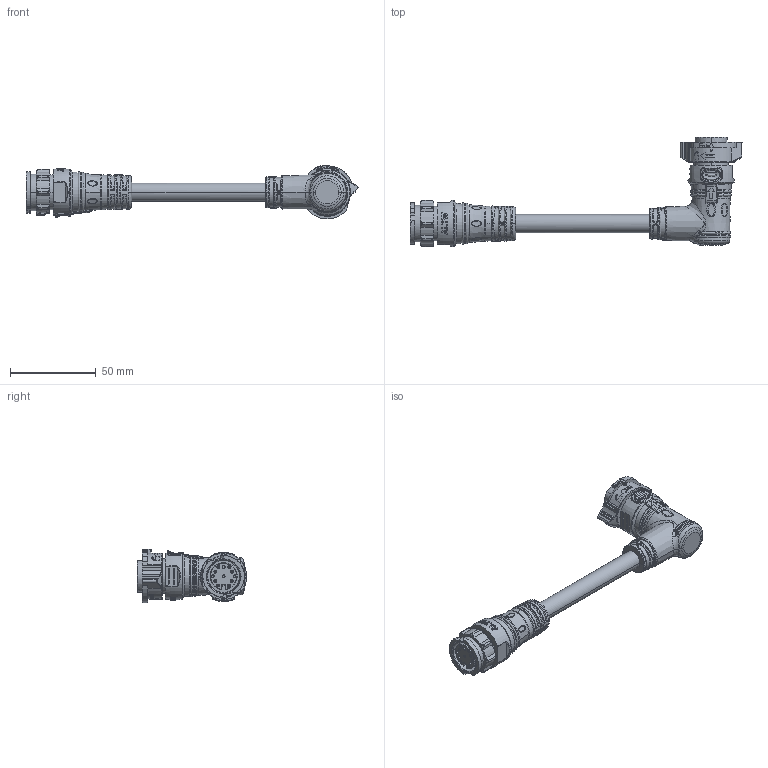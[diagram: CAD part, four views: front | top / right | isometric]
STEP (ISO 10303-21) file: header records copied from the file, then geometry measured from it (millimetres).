
FILE_DESCRIPTION((''),'2;1');
FILE_NAME('AB-DD12HL-DDBR-QDXXX_SW0001','2021-10-20T',('L100003'),(''),'PRO/ENGINEER BY PARAMETRIC TECHNOLOGY CORPORATION, 2017170','PRO/ENGINEER BY PARAMETRIC TECHNOLOGY CORPORATION, 2017170','');
FILE_SCHEMA(('CONFIG_CONTROL_DESIGN'));
Products named in the file (1): AB-DD12HL-DDBR-QDXXX_SW0001
Bounding box: 193.9 x 64 x 31.26 mm (x, y, z)
Volume: 65006.2 mm3; surface area: 21528.4 mm2
Topology: 2 solids, 4 shells, 2187 faces, 5978 edges, 3879 vertices
Faces by surface type: plane 758, cylinder 472, bspline 383, extrusion 290, torus 137, cone 122, revolution 16, sphere 9
Entity records: 116182 total; most frequent: CARTESIAN_POINT 65446, ORIENTED_EDGE 11948, DIRECTION 8460, EDGE_CURVE 5974, VERTEX_POINT 3879, AXIS2_PLACEMENT_3D 3025, B_SPLINE_CURVE_WITH_KNOTS 2649, VECTOR 2394
